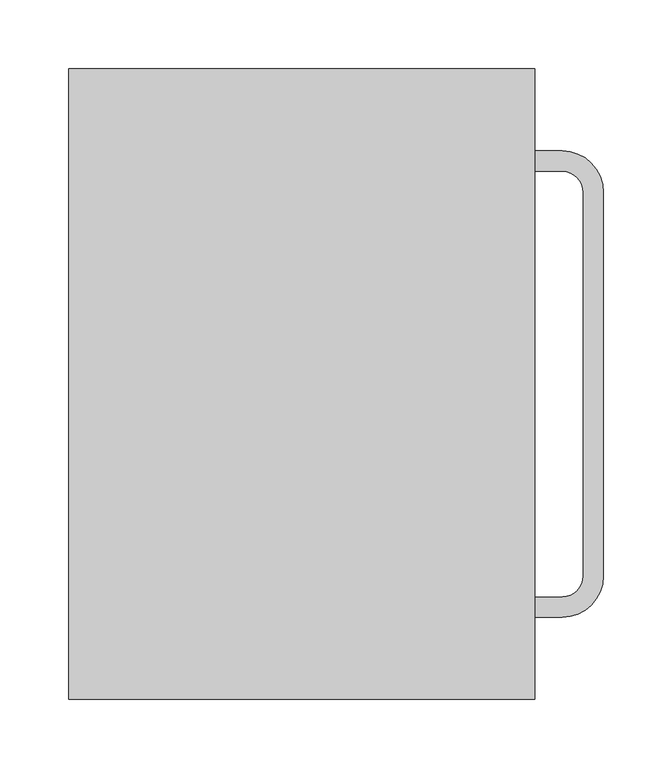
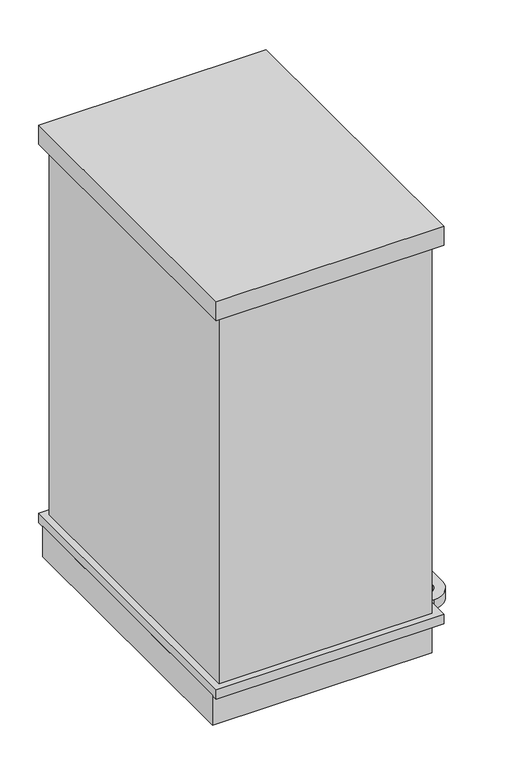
"""IFC4 building model written with IfcOpenShell, lengths in millimetres: furniture geometry, BIMHealth-Bin_Clinical_Foot_Operated-LOD2A-v1:BIMHealth-Bin_Clinical_Foot_Operated-LOD2A-v1:1 : BIMHealth-Bin_Clinical_Foot_Operated-LOD2A-v1:BIMHealth-Bin_Clinical_Foot_Operated-LOD2A-v1:404955."""

from ifc_helpers import new_model, si_unit, point, frame, frame_2d, origin, origin_with_axes, place, context, project, spatial, polyline, circle_curve, trimmed, segment, composite_curve, outline, extrude, source, transform, mapped, element, save


def furniture_c009ef40(model_context):
    return source(origin(), model_context, "Body", "SweptSolid", [
        extrude(outline(composite_curve([segment(trimmed(circle_curve(frame_2d((7840.1708483, 10900.8737165)), 30.0), [point((7840.1708483, 10930.8737165))], [point((7870.1708483, 10900.8737165))], False, "CARTESIAN"), True, "CONTINUOUS"), segment(polyline([(7870.1708483, 10900.8737165), (7870.1708483, 10620.8737165)]), True, "CONTINUOUS"), segment(trimmed(circle_curve(frame_2d((7840.1708483, 10620.8737165)), 30.0), [point((7870.1708483, 10620.8737165))], [point((7840.1708483, 10590.8737165))], False, "CARTESIAN"), True, "CONTINUOUS"), segment(polyline([(7840.1708483, 10590.8737165), (7622.9498663, 10590.8737165), (7622.9498663, 10930.8737165), (7840.1708483, 10930.8737165)]), True, "CONTINUOUS")], self_intersect=False), holes=[composite_curve([segment(polyline([(7637.9498663, 10605.8737165), (7840.1708483, 10605.8737165)]), True, "CONTINUOUS"), segment(trimmed(circle_curve(frame_2d((7840.1708483, 10620.8737165)), 15.0), [point((7840.1708483, 10605.8737165))], [point((7855.1708483, 10620.8737165))], True, "CARTESIAN"), True, "CONTINUOUS"), segment(polyline([(7855.1708483, 10620.8737165), (7855.1708483, 10900.8737165)]), True, "CONTINUOUS"), segment(trimmed(circle_curve(frame_2d((7840.1708483, 10900.8737165)), 15.0), [point((7855.1708483, 10900.8737165))], [point((7840.1708483, 10915.8737165))], True, "CARTESIAN"), True, "CONTINUOUS"), segment(polyline([(7840.1708483, 10915.8737165), (7637.9498663, 10915.8737165), (7637.9498663, 10605.8737165)]), True, "CONTINUOUS")], self_intersect=False)]), frame((0.0, 0.0, 27.5), z_axis=(0.0, 0.0, 1.0), x_axis=(1.0, 0.0, 0.0)), (0.0, 0.0, 1.0), 15.0),
        extrude(outline(polyline([(7807.9498663, 10950.8737165), (7510.1708483, 10950.8737165), (7510.1708483, 10570.8737165), (7807.9498663, 10570.8737165), (7807.9498663, 10540.8737165), (7480.1708483, 10540.8737165), (7480.1708483, 10980.8737165), (7807.9498663, 10980.8737165), (7807.9498663, 10950.8737165)])), origin_with_axes(), (0.0, 0.0, 1.0), 47.5),
        extrude(outline(polyline([(7490.1708483, 10980.8737165), (7807.9498663, 10980.8737165), (7807.9498663, 10540.8737165), (7490.1708483, 10540.8737165), (7490.1708483, 10980.8737165)])), frame((0.0, 0.0, 62.5), z_axis=(0.0, 0.0, 1.0), x_axis=(1.0, 0.0, 0.0)), (0.0, 0.0, 1.0), 582.5),
        extrude(outline(polyline([(7480.1708483, 10990.8737165), (7820.1708483, 10990.8737165), (7820.1708483, 10530.8737165), (7480.1708483, 10530.8737165), (7480.1708483, 10990.8737165)])), frame((0.0, 0.0, 645.0), z_axis=(0.0, 0.0, 1.0), x_axis=(1.0, 0.0, 0.0)), (0.0, 0.0, 1.0), 30.0),
        extrude(outline(polyline([(7480.1708483, 10990.8737165), (7820.1708483, 10990.8737165), (7820.1708483, 10530.8737165), (7480.1708483, 10530.8737165), (7480.1708483, 10990.8737165)])), frame((0.0, 0.0, 47.5), z_axis=(0.0, 0.0, 1.0), x_axis=(1.0, 0.0, 0.0)), (0.0, 0.0, 1.0), 15.0),
        extrude(outline(polyline([(10803.6383377, 583.7088507), (10806.0998762, 583.7088507), (10806.0998762, 576.4684661), (10810.38353, 578.7857738), (10813.1479531, 578.1535622), (10814.8258377, 576.4059661), (10815.3306454, 573.1703892), (10815.3306454, 564.016543), (10812.8691069, 564.016543), (10812.8691069, 572.9155815), (10812.0854531, 575.5117353), (10809.8642992, 576.3242353), (10807.8474723, 575.7761584), (10806.5013185, 574.2905815), (10806.0998762, 571.6992353), (10806.0998762, 564.016543), (10803.6383377, 564.016543), (10803.6383377, 583.7088507)])), frame((7807.9498663, 0.0, 0.0), z_axis=(1.0, 0.0, 0.0), x_axis=(0.0, 1.0, 0.0)), (0.0, 0.0, 1.0), 2.0),
        extrude(outline(polyline([(10801.4844915, 563.9444276), (10799.6431454, 563.7088507), (10797.5806454, 564.1175045), (10796.2537223, 567.9828892), (10796.2537223, 576.016543), (10794.4075685, 576.016543), (10794.4075685, 578.4780815), (10796.2537223, 578.4780815), (10796.2537223, 581.9925045), (10798.7152608, 583.4396199), (10798.7152608, 578.4780815), (10801.1767992, 578.4780815), (10801.1767992, 576.016543), (10798.7152608, 576.016543), (10799.94603, 567.0622161), (10801.4844915, 563.9444276)])), frame((7807.9498663, 0.0, 0.0), z_axis=(1.0, 0.0, 0.0), x_axis=(0.0, 1.0, 0.0)), (0.0, 0.0, 1.0), 2.0),
        extrude(outline(polyline([(7807.9498663, 10792.2537223), (7809.9498663, 10792.2537223), (7809.9498663, 10789.7921838), (7807.9498663, 10789.7921838), (7807.9498663, 10792.2537223)])), frame((0.0, 0.0, 564.016543), z_axis=(0.0, 0.0, 1.0), x_axis=(1.0, 0.0, 0.0)), (0.0, 0.0, 1.0), 19.6923077),
        extrude(outline(polyline([(10781.5590108, 564.1944276), (10778.9219915, 563.7088507), (10775.3474723, 564.8771199), (10774.0998762, 567.8626968), (10774.57103, 569.8098122), (10775.8090108, 571.2232738), (10777.5325685, 572.0309661), (10779.6623762, 572.4011584), (10783.9316069, 573.2473122), (10783.2681454, 575.6126968), (10780.5469915, 576.3242353), (10778.0566069, 575.8506776), (10776.8691069, 574.1703892), (10774.4075685, 574.4780815), (10775.4724723, 576.8819276), (10777.6167031, 578.2905815), (10780.8642992, 578.7857738), (10783.8474723, 578.3482738), (10785.5325685, 577.2497161), (10786.2873762, 575.579043), (10786.4075685, 573.4251968), (10786.4075685, 570.3626968), (10786.5325685, 566.0862545), (10787.0229531, 564.016543), (10784.5614146, 564.016543), (10783.94603, 565.8626968), (10781.5590108, 564.1944276)]), holes=[polyline([(10779.9748762, 570.0309661), (10777.8570877, 569.6319276), (10779.44603, 566.1703892), (10781.9364146, 566.7593315), (10783.5421838, 568.1848122), (10783.9388185, 570.4372161), (10779.9748762, 570.0309661)])]), frame((7807.9498663, 0.0, 0.0), z_axis=(1.0, 0.0, 0.0), x_axis=(0.0, 1.0, 0.0)), (0.0, 0.0, 1.0), 2.0),
        extrude(outline(polyline([(10772.1767992, 568.016543), (10769.9195877, 564.8386584), (10765.7144453, 563.7118939), (10760.6046838, 565.6583699), (10758.7152608, 571.1271199), (10760.6239146, 576.7761584), (10765.5758377, 578.7857738), (10770.3859338, 576.7809661), (10772.2537223, 571.141543), (10761.1767992, 570.4780815), (10762.5926646, 567.2809661), (10765.7633377, 566.1703892), (10768.1767992, 566.6848122), (10769.7633377, 568.3242353), (10772.1767992, 568.016543)]), holes=[polyline([(10769.7921838, 572.9396199), (10768.8066069, 575.1703892), (10765.5662223, 576.3242353), (10762.5349723, 575.4035622), (10761.1767992, 572.9396199), (10769.7921838, 572.9396199)])]), frame((7807.9498663, 0.0, 0.0), z_axis=(1.0, 0.0, 0.0), x_axis=(0.0, 1.0, 0.0)), (0.0, 0.0, 1.0), 2.0),
        extrude(outline(polyline([(10740.2537223, 583.7088507), (10742.7152608, 583.7088507), (10742.7152608, 575.7088507), (10753.1767992, 575.7088507), (10753.1767992, 583.7088507), (10755.6383377, 583.7088507), (10755.6383377, 564.016543), (10753.1767992, 564.016543), (10753.1767992, 573.2473122), (10742.7152608, 573.2473122), (10742.7152608, 564.016543), (10740.2537223, 564.016543), (10740.2537223, 583.7088507)])), frame((7807.9498663, 0.0, 0.0), z_axis=(1.0, 0.0, 0.0), x_axis=(0.0, 1.0, 0.0)), (0.0, 0.0, 1.0), 2.0),
        extrude(outline(polyline([(10717.7921838, 583.7088507), (10722.0277608, 583.7088507), (10726.0566069, 569.829043), (10726.8691069, 566.9300045), (10727.7489146, 570.0694276), (10731.7104531, 583.7088507), (10735.94603, 583.7088507), (10735.94603, 564.016543), (10733.4844915, 564.016543), (10733.4844915, 581.2473122), (10728.5373762, 564.016543), (10725.2008377, 564.016543), (10720.2537223, 581.2473122), (10720.2537223, 564.016543), (10717.7921838, 564.016543), (10717.7921838, 583.7088507)])), frame((7807.9498663, 0.0, 0.0), z_axis=(1.0, 0.0, 0.0), x_axis=(0.0, 1.0, 0.0)), (0.0, 0.0, 1.0), 2.0),
        extrude(outline(polyline([(7807.9498663, 10712.8691069), (7809.9498663, 10712.8691069), (7809.9498663, 10710.4075685), (7807.9498663, 10710.4075685), (7807.9498663, 10712.8691069)])), frame((0.0, 0.0, 564.016543), z_axis=(0.0, 0.0, 1.0), x_axis=(1.0, 0.0, 0.0)), (0.0, 0.0, 1.0), 19.6923077),
        extrude(outline(polyline([(10691.94603, 583.7088507), (10699.4604531, 583.7088507), (10703.1407415, 583.1295238), (10705.3138185, 581.3482738), (10706.0998762, 578.829043), (10705.4388185, 576.5285622), (10703.4412223, 574.7857738), (10705.8667031, 572.9492353), (10706.7152608, 569.8867353), (10706.1359338, 567.2401007), (10704.7008377, 565.3554853), (10702.5590108, 564.3554853), (10699.4027608, 564.016543), (10691.94603, 564.016543), (10691.94603, 583.7088507)]), holes=[polyline([(10698.9027608, 575.7088507), (10701.5277608, 575.9203892), (10703.1067555, 576.8320222), (10703.6383377, 578.4348122), (10703.1431454, 580.0405815), (10701.7248762, 580.9901007), (10698.5614146, 581.2473122), (10694.4075685, 581.2473122), (10694.4075685, 575.7088507), (10698.9027608, 575.7088507)]), polyline([(10699.4556454, 566.4780815), (10701.2825685, 566.5742353), (10702.8282415, 567.110293), (10704.2537223, 569.8626968), (10703.7825685, 571.7761584), (10702.2561262, 572.9179853), (10699.2152608, 573.2473122), (10694.4075685, 573.2473122), (10694.4075685, 566.4780815), (10699.4556454, 566.4780815)])]), frame((7807.9498663, 0.0, 0.0), z_axis=(1.0, 0.0, 0.0), x_axis=(0.0, 1.0, 0.0)), (0.0, 0.0, 1.0), 2.0),
    ])


if __name__ == "__main__":
    model = new_model("IFC4")
    model_context = context("Model", 3, world=origin())
    ifc_project = project(units=[si_unit("LENGTHUNIT", "METRE", prefix="MILLI")], contexts=[model_context])
    site = spatial("IfcSite", under=ifc_project)
    building = spatial("IfcBuilding", under=site)
    placement = place(None, origin())
    furniture_shape = furniture_c009ef40(model_context)
    element("IfcFurniture", 1, ObjectType="BIMHealth-Bin_Clinical_Foot_Operated-LOD2A-v1:BIMHealth-Bin_Clinical_Foot_Operated-LOD2A-v1:1 : BIMHealth-Bin_Clinical_Foot_Operated-LOD2A-v1:BIMHealth-Bin_Clinical_Foot_Operated-LOD2A-v1:404955", at=placement, inside=building, context=model_context, shape_type="MappedRepresentation", body=[
        mapped(furniture_shape, transform((0.0, 0.0, 0.0), x_axis=(1.0, 0.0, 0.0), y_axis=(0.0, 1.0, 0.0), z_axis=(0.0, 0.0, 1.0))),
    ])
    save(model, "model.ifc")
